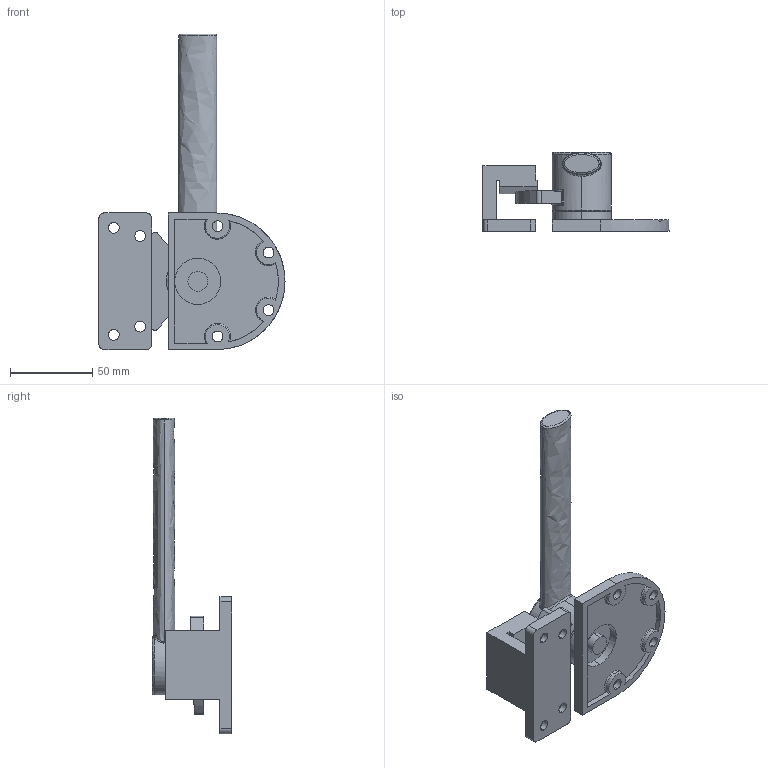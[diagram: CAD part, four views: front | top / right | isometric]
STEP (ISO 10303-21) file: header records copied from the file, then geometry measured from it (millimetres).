
FILE_DESCRIPTION (( 'STEP AP203' ), '1' );
FILE_NAME ('J09-1230R.STEP', '2024-11-04T08:44:41', ( '' ), ( '' ), 'SwSTEP 2.0', 'SolidWorks 2021', '' );
FILE_SCHEMA (( 'CONFIG_CONTROL_DESIGN' ));
Length unit declared in the file: millimetre
Products named in the file (5): J09-底座螺絲; J09-1230R-扣; J09-1230R-1-座; J09-1230-R-1-握把; J09-1230R
Assembly tree (4 placements, depth 2):
  J09-1230R
    J09-1230R-1-座
    J09-1230-R-1-握把
    J09-1230R-扣
    J09-底座螺絲
Bounding box: 113 x 48 x 191.5 mm (x, y, z)
Volume: 144653.9 mm3; surface area: 45664.8 mm2
Topology: 4 solids, 4 shells, 124 faces, 318 edges, 202 vertices
Faces by surface type: cylinder 51, plane 37, cone 24, bspline 7, torus 5
Entity records: 5352 total; most frequent: CARTESIAN_POINT 1785, DIRECTION 662, ORIENTED_EDGE 632, EDGE_CURVE 316, AXIS2_PLACEMENT_3D 260, VERTEX_POINT 202, EDGE_LOOP 144, VECTOR 142
